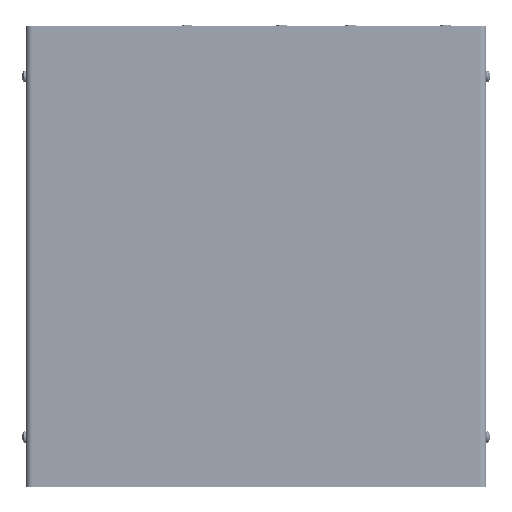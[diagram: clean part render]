
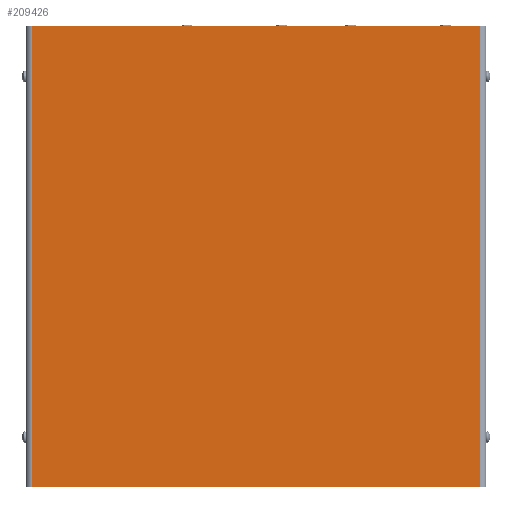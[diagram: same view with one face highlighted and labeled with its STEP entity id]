
A CAD part, top view. The second image highlights one B-rep face of the part: STEP entity #209426.
In plain terms, the highlighted planar face has unit normal (0, 0, 1) as drawn and (0, 0, -1) by its records, which use the part's own axes.
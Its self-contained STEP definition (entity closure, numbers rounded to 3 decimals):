
#23737=PLANE('',#218929);
#34646=FACE_OUTER_BOUND('',#46595,.T.);
#46595=EDGE_LOOP('',(#190714,#190715,#190716,#190717));
#64112=LINE('',#394481,#83928);
#64129=LINE('',#394532,#83945);
#64133=LINE('',#394542,#83949);
#64134=LINE('',#394544,#83950);
#83928=VECTOR('',#252267,10.);
#83945=VECTOR('',#252316,10.);
#83949=VECTOR('',#252330,10.);
#83950=VECTOR('',#252333,10.);
#106615=VERTEX_POINT('',#394478);
#106616=VERTEX_POINT('',#394480);
#106633=VERTEX_POINT('',#394529);
#106634=VERTEX_POINT('',#394531);
#135078=EDGE_CURVE('',#106615,#106616,#64112,.T.);
#135104=EDGE_CURVE('',#106633,#106634,#64129,.T.);
#135110=EDGE_CURVE('',#106616,#106633,#64133,.T.);
#135111=EDGE_CURVE('',#106634,#106615,#64134,.T.);
#190714=ORIENTED_EDGE('',*,*,#135110,.F.);
#190715=ORIENTED_EDGE('',*,*,#135078,.F.);
#190716=ORIENTED_EDGE('',*,*,#135111,.F.);
#190717=ORIENTED_EDGE('',*,*,#135104,.F.);
#209426=ADVANCED_FACE('',(#34646),#23737,.F.);
#218929=AXIS2_PLACEMENT_3D('',#394551,#252344,#252345);
#252267=DIRECTION('',(-1.,0.,0.));
#252316=DIRECTION('',(1.,0.,0.));
#252330=DIRECTION('',(0.,-1.,0.));
#252333=DIRECTION('',(0.,1.,0.));
#252344=DIRECTION('center_axis',(0.,0.,1.));
#252345=DIRECTION('ref_axis',(1.,0.,0.));
#394478=CARTESIAN_POINT('',(225.12,228.6,0.));
#394480=CARTESIAN_POINT('',(3.048,228.6,0.));
#394481=CARTESIAN_POINT('',(228.168,228.6,0.));
#394529=CARTESIAN_POINT('',(3.048,0.,0.));
#394531=CARTESIAN_POINT('',(225.12,0.,0.));
#394532=CARTESIAN_POINT('',(0.,0.,0.));
#394542=CARTESIAN_POINT('',(3.048,171.45,0.));
#394544=CARTESIAN_POINT('',(225.12,57.15,0.));
#394551=CARTESIAN_POINT('Origin',(114.084,114.3,0.));
